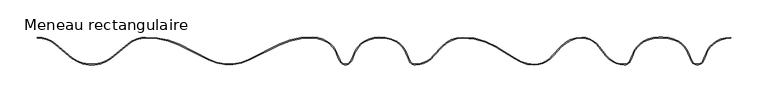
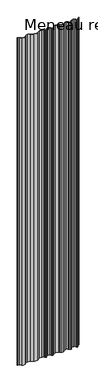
"""IFC4 building model written with IfcOpenShell, lengths in millimetres: member geometry, Meneau rectangulaire : Ritmica 930."""

from ifc_helpers import new_model, si_unit, frame, origin, place, context, project, spatial, polyline, circle_curve, source, transform, mapped, element, save
from ifc_brep_helpers import plane_surface, cylinder_surface, revolved_surface, advanced_brep


def meneau_rectangulaire_120ebf25(model_context):
    return source(origin(), model_context, "Body", "AdvancedBrep", [
        advanced_brep(
        [(402.2205359, 30.4385777, 0.0), (421.7589181, 35.9478391, 0.0), (421.7589181, 36.9478391, 0.0), (401.6984475, 31.2914691, 0.0), (388.8453903, 16.0569909, 0.0), (385.9787761, 8.8924216, 0.0), (384.3336727, 5.4571133, 0.0), (370.1555943, 5.4519528, 0.0), (368.5079906, 8.8860626, 0.0), (365.6361617, 16.0485432, 0.0), (352.7665281, 31.277015, 0.0), (331.1566595, 37.2056593, 0.0), (325.8181686, 37.2056593, 0.0), (304.2106964, 31.2585224, 0.0), (291.354122, 16.0229852, 0.0), (288.4869159, 8.8569365, 0.0), (286.8418125, 5.4216282, 0.0), (279.7543979, 0.9556818, 0.0), (255.5611507, 12.6054811, 0.0), (246.0362251, 24.5565471, 0.0), (222.7501335, 36.9429608, 0.0), (194.5527852, 24.6182498, 0.0), (183.4233669, 12.6003168, 0.0), (159.2172985, 0.9038291, 0.0), (133.0380886, 9.1495706, 0.0), (115.6744339, 20.3001087, 0.0), (108.2363693, 24.6976264, 0.0), (63.5265456, 37.0260575, 0.0), (35.3401939, 24.7013521, 0.0), (24.2106858, 12.683322, 0.0), (0.0030296, 0.9869307, 0.0), (-7.0877621, 5.4477166, 0.0), (-8.7353659, 8.8818263, 0.0), (-11.6071948, 16.044307, 0.0), (-24.4768283, 31.2727788, 0.0), (-48.7885595, 37.1140573, 0.0), (-68.816655, 31.4577126, 0.0), (-81.6697123, 16.2232345, 0.0), (-84.5363264, 9.0586651, 0.0), (-86.1814299, 5.6233569, 0.0), (-100.3595082, 5.6181963, 0.0), (-102.007112, 9.0523061, 0.0), (-104.8789409, 16.2147868, 0.0), (-117.7430848, 31.4399044, 0.0), (-137.7899019, 37.0816721, 0.0), (-181.9940118, 27.7973456, 0.0), (-222.5328517, 7.3967696, 0.0), (-275.5383238, 7.3774767, 0.0), (-316.0920037, 27.7485366, 0.0), (-360.3028616, 37.0006818, 0.0), (-384.6892438, 28.1569021, 0.0), (-407.0931164, 9.4780798, 0.0), (-458.7111182, 9.4592919, 0.0), (-481.1285823, 28.1218001, 0.0), (-505.5391627, 36.9478229, 0.0), (-505.5391627, 35.9478228, 0.0), (-481.768388, 27.3532635, 0.0), (-459.3305586, 8.6738011, 0.0), (-406.4731044, 8.6930401, 0.0), (-384.0488787, 27.3888314, 0.0), (-360.2847308, 36.0006925, 0.0), (-316.5331062, 26.8510378, 0.0), (-275.9871976, 6.4838815, 0.0), (-222.0833276, 6.5035014, 0.0), (-181.5522561, 26.9001681, 0.0), (-137.8073037, 36.0816698, 0.0), (-118.2645522, 30.5866331, 0.0), (-105.8071999, 15.8428524, 0.0), (-102.9229956, 8.6495068, 0.0), (-101.26111, 5.1856293, 0.0), (-85.2795134, 5.1914463, 0.0), (-83.6201498, 8.6565327, 0.0), (-80.7411827, 15.8519759, 0.0), (-68.2945667, 30.6048212, 0.0), (-48.7558205, 36.1140827, 0.0), (-24.992806, 30.4161534, 0.0), (-12.5354538, 15.6723726, 0.0), (-9.6512495, 8.4790271, 0.0), (-7.9893639, 5.0151496, 0.0), (5.58e-05, -0.0130699, 0.0), (24.9701296, 12.0316475, 0.0), (36.0739028, 24.0218881, 0.0), (63.5379063, 36.0260631, 0.0), (107.7160778, 23.8435356, 0.0), (115.1496156, 19.4486943, 0.0), (132.4826193, 8.3178394, 0.0), (159.2158569, -0.0961715, 0.0), (184.1827208, 11.9485452, 0.0), (195.286494, 23.9387858, 0.0), (222.7504975, 35.9429609, 0.0), (245.2289804, 23.9649435, 0.0), (254.7791365, 11.9822206, 0.0), (279.7547619, -0.0443181, 0.0), (287.7437289, 4.9897177, 0.0), (289.4030925, 8.4548041, 0.0), (292.2820596, 15.6502473, 0.0), (304.7286757, 30.4030926, 0.0), (325.8181686, 36.2037161, 0.0), (331.1568404, 36.2056593, 0.0), (352.2505504, 30.4203896, 0.0), (364.7079026, 15.6766089, 0.0), (367.5921069, 8.4832633, 0.0), (369.2539925, 5.0193858, 0.0), (385.2355891, 5.0252028, 0.0), (386.8949527, 8.4902892, 0.0), (389.7739198, 15.6857324, 0.0), (402.2205359, 30.4385777, -5176.3809021), (389.7739198, 15.6857324, -5176.3809021), (386.8949527, 8.4902892, -5176.3809021), (385.2355891, 5.0252028, -5176.3809021), (369.2539925, 5.0193858, -5176.3809021), (367.5921069, 8.4832633, -5176.3809021), (364.7079026, 15.6766089, -5176.3809021), (352.2505504, 30.4203896, -5176.3809021), (331.1568404, 36.2056593, -5176.3809021), (325.8181686, 36.2056593, -5176.3809021), (304.7286757, 30.4030926, -5176.3809021), (292.2820596, 15.6502473, -5176.3809021), (289.4030925, 8.4548041, -5176.3809021), (287.7437289, 4.9897177, -5176.3809021), (279.7547619, -0.0443181, -5176.3809021), (254.7791365, 11.9822206, -5176.3809021), (245.2289804, 23.9649435, -5176.3809021), (222.7504975, 35.9429609, -5176.3809021), (195.286494, 23.9387858, -5176.3809021), (184.1827208, 11.9485452, -5176.3809021), (159.2158569, -0.0961715, -5176.3809021), (132.4826193, 8.3178394, -5176.3809021), (115.1496156, 19.4486943, -5176.3809021), (107.7160778, 23.8435356, -5176.3809021), (63.5379063, 36.0260631, -5176.3809021), (36.0739028, 24.0218881, -5176.3809021), (24.9701296, 12.0316475, -5176.3809021), (0.0032656, -0.0130693, -5176.3809021), (-7.9893639, 5.0151496, -5176.3809021), (-9.6512495, 8.4790271, -5176.3809021), (-12.5354538, 15.6723726, -5176.3809021), (-24.992806, 30.4161534, -5176.3809021), (-48.7558205, 36.1140827, -5176.3809021), (-68.2945667, 30.6048212, -5176.3809021), (-80.7411827, 15.8519759, -5176.3809021), (-83.6201498, 8.6565327, -5176.3809021), (-85.2795134, 5.1914463, -5176.3809021), (-101.26111, 5.1856293, -5176.3809021), (-102.9229956, 8.6495068, -5176.3809021), (-105.8071999, 15.8428524, -5176.3809021), (-118.2645522, 30.5866331, -5176.3809021), (-137.8073037, 36.0816698, -5176.3809021), (-181.5522561, 26.9001681, -5176.3809021), (-222.0833276, 6.5035014, -5176.3809021), (-275.9871976, 6.4838815, -5176.3809021), (-316.5331062, 26.8510378, -5176.3809021), (-360.2847308, 36.0006925, -5176.3809021), (-384.0488787, 27.3888314, -5176.3809021), (-406.4731044, 8.6930401, -5176.3809021), (-459.3305586, 8.6738011, -5176.3809021), (-481.768388, 27.3532635, -5176.3809021), (-505.5391627, 35.9478228, -5176.3809021), (-505.5391627, 36.9478229, -5176.3809021), (-481.1285823, 28.1218001, -5176.3809021), (-458.7111182, 9.4592919, -5176.3809021), (-407.0931164, 9.4780798, -5176.3809021), (-384.6892438, 28.1569021, -5176.3809021), (-360.3028616, 37.0006818, -5176.3809021), (-316.0920037, 27.7485366, -5176.3809021), (-275.5383238, 7.3774767, -5176.3809021), (-222.5328517, 7.3967696, -5176.3809021), (-181.9940118, 27.7973456, -5176.3809021), (-137.7899019, 37.0816721, -5176.3809021), (-117.7430848, 31.4399044, -5176.3809021), (-104.8789409, 16.2147868, -5176.3809021), (-102.007112, 9.0523061, -5176.3809021), (-100.3595082, 5.6181963, -5176.3809021), (-86.1814299, 5.6233569, -5176.3809021), (-84.5363264, 9.0586651, -5176.3809021), (-81.6697123, 16.2232345, -5176.3809021), (-68.816655, 31.4577126, -5176.3809021), (-48.7885595, 37.1140573, -5176.3809021), (-24.4768283, 31.2727788, -5176.3809021), (-11.6071948, 16.044307, -5176.3809021), (-8.7353659, 8.8818263, -5176.3809021), (-7.0877621, 5.4477166, -5176.3809021), (5.4e-05, 0.9869301, -5176.3809021), (24.2106858, 12.683322, -5176.3809021), (35.3401939, 24.7013521, -5176.3809021), (63.5265456, 37.0260575, -5176.3809021), (108.2363693, 24.6976264, -5176.3809021), (115.6744339, 20.3001087, -5176.3809021), (133.0380886, 9.1495706, -5176.3809021), (159.2172985, 0.9038291, -5176.3809021), (183.4233669, 12.6003168, -5176.3809021), (194.5527852, 24.6182498, -5176.3809021), (222.7501335, 36.9429608, -5176.3809021), (246.0362251, 24.5565471, -5176.3809021), (255.5611507, 12.6054811, -5176.3809021), (279.7543979, 0.9556818, -5176.3809021), (286.8418125, 5.4216282, -5176.3809021), (288.4869159, 8.8569365, -5176.3809021), (291.354122, 16.0229852, -5176.3809021), (304.2106964, 31.2585224, -5176.3809021), (325.8178046, 37.2037161, -5176.3809021), (331.1566595, 37.2056593, -5176.3809021), (352.7665281, 31.277015, -5176.3809021), (365.6361617, 16.0485432, -5176.3809021), (368.5079906, 8.8860626, -5176.3809021), (370.1555943, 5.4519528, -5176.3809021), (384.3336727, 5.4571133, -5176.3809021), (385.9787761, 8.8924216, -5176.3809021), (388.8453903, 16.0569909, -5176.3809021), (401.6984475, 31.2914691, -5176.3809021), (421.7589181, 36.9478391, -5176.3809021), (421.7589181, 35.9478391, -5176.3809021)],
        [
            (0, 1, circle_curve(frame((421.7729132, -1.5024827, 0.0), z_axis=(0.0, 0.0, -1.0), x_axis=(-0.00036397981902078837, 0.9999999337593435, 0.0)), 37.4503244)),
            (1, 2),
            (2, 3, circle_curve(frame((421.7729132, -1.5024827, 0.0), z_axis=(0.0, 0.0, 1.0), x_axis=(-0.00036397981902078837, 0.9999999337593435, 0.0)), 38.4503244)),
            (3, 4, circle_curve(frame((418.2051463, 4.3258754, 0.0), z_axis=(0.0, 0.0, 1.0), x_axis=(-0.522088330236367, 0.8528914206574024, 0.0)), 31.6166783)),
            (4, 5),
            (5, 6),
            (6, 7, circle_curve(frame((377.2433967, 8.8525109, 0.0), z_axis=(0.0, 0.0, -1.0), x_axis=(0.9019164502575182, -0.4319105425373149, 0.0)), 7.8613445)),
            (7, 8),
            (8, 9),
            (9, 10, circle_curve(frame((336.2849532, 4.2960581, 0.0), z_axis=(0.0, 0.0, 1.0), x_axis=(0.928348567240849, 0.3717108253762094, 0.0)), 31.6166783)),
            (10, 11, circle_curve(frame((331.1718702, -5.0871328, 0.0), z_axis=(0.0, 0.0, 1.0), x_axis=(0.5104687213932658, 0.8598963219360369, 0.0)), 42.2927949)),
            (11, 12),
            (12, 13, circle_curve(frame((325.8331983, -5.089076, 0.0), z_axis=(0.0, 0.0, 1.0), x_axis=(-0.0003639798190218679, 0.9999999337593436, 0.0)), 42.2927949)),
            (13, 14, circle_curve(frame((320.9540861, 4.0872333, 0.0), z_axis=(0.0, 0.0, 1.0), x_axis=(-0.5248253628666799, 0.8512099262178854, 0.0)), 31.9158276)),
            (14, 15),
            (15, 16),
            (16, 17, circle_curve(frame((279.7515365, 8.8170258, 0.0), z_axis=(0.0, 0.0, -1.0), x_axis=(0.9019164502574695, -0.4319105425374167, 0.0)), 7.8613445)),
            (17, 18, circle_curve(frame((279.7431426, 31.8783789, 0.0), z_axis=(0.0, 0.0, -1.0), x_axis=(0.00036397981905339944, -0.9999999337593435, 0.0)), 30.9226992)),
            (18, 19),
            (19, 20, circle_curve(frame((222.7603477, 8.8803744, 0.0), z_axis=(0.0, 0.0, 1.0), x_axis=(0.8302470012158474, 0.5573956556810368, 0.0)), 28.0625882)),
            (20, 21, circle_curve(frame((222.7641287, -1.5073611, 0.0), z_axis=(0.0, 0.0, 1.0), x_axis=(-0.0003639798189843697, 0.9999999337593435, 0.0)), 38.4503244)),
            (21, 22),
            (22, 23, circle_curve(frame((159.2042377, 31.8265255, 0.0), z_axis=(0.0, 0.0, -1.0), x_axis=(0.7824677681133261, -0.622691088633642, 0.0)), 30.9226992)),
            (23, 24, circle_curve(frame((159.3694534, 47.0676509, 0.0), z_axis=(0.0, 0.0, -1.0), x_axis=(-0.003256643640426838, -0.9999946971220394, 0.0)), 46.1640725)),
            (24, 25),
            (25, 26),
            (26, 27, circle_curve(frame((65.3150434, -43.7235405, 0.0), z_axis=(0.0, 0.0, 1.0), x_axis=(0.5315450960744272, 0.8470299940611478, 0.0)), 80.769402)),
            (27, 28, circle_curve(frame((63.5515374, -1.4242588, 0.0), z_axis=(0.0, 0.0, 1.0), x_axis=(-0.0003639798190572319, 0.9999999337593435, 0.0)), 38.4503244)),
            (28, 29),
            (29, 30, circle_curve(frame((0.0, 31.8923121, 0.0), z_axis=(0.0, 0.0, -1.0), x_axis=(0.7826306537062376, -0.6224863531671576, 0.0)), 30.9053815)),
            (30, 31, circle_curve(frame((4.03e-05, 8.8482747, 0.0), z_axis=(0.0, 0.0, -1.0), x_axis=(0.0003639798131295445, -0.9999999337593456, 0.0)), 7.8613445)),
            (31, 32),
            (32, 33),
            (33, 34, circle_curve(frame((-40.9584033, 4.2918219, 0.0), z_axis=(0.0, 0.0, 1.0), x_axis=(0.9283485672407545, 0.3717108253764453, 0.0)), 31.6166783)),
            (34, 35, circle_curve(frame((-46.0714863, -5.0913691, 0.0), z_axis=(0.0, 0.0, 1.0), x_axis=(0.5104687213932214, 0.8598963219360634, 0.0)), 42.2927949)),
            (35, 36, circle_curve(frame((-48.7421893, -1.3362392, 0.0), z_axis=(0.0, 0.0, 1.0), x_axis=(-0.000363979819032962, 0.9999999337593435, 0.0)), 38.4503244)),
            (36, 37, circle_curve(frame((-52.3099562, 4.4921189, 0.0), z_axis=(0.0, 0.0, 1.0), x_axis=(-0.522088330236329, 0.8528914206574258, 0.0)), 31.6166783)),
            (37, 38),
            (38, 39),
            (39, 40, circle_curve(frame((-93.2717058, 9.0187544, 0.0), z_axis=(0.0, 0.0, -1.0), x_axis=(0.9019164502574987, -0.43191054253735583, 0.0)), 7.8613445)),
            (40, 41),
            (41, 42),
            (42, 43, circle_curve(frame((-134.2301494, 4.4623016, 0.0), z_axis=(0.0, 0.0, 1.0), x_axis=(0.9283485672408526, 0.3717108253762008, 0.0)), 31.6166783)),
            (43, 44, circle_curve(frame((-137.7936725, -1.3686521, 0.0), z_axis=(0.0, 0.0, 1.0), x_axis=(0.5214673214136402, 0.8532712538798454, 0.0)), 38.4503244)),
            (44, 45, circle_curve(frame((-141.0742515, -57.1544877, 0.0), z_axis=(0.0, 0.0, 1.0), x_axis=(0.035018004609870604, 0.9993866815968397, 0.0)), 94.293376)),
            (45, 46),
            (46, 47, circle_curve(frame((-249.054774, 60.0995934, 0.0), z_axis=(0.0, 0.0, -1.0), x_axis=(0.4495241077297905, -0.8932681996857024, 0.0)), 59.0)),
            (47, 48),
            (48, 49, circle_curve(frame((-356.9499117, -57.2330621, 0.0), z_axis=(0.0, 0.0, 1.0), x_axis=(0.43322266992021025, 0.9012869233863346, 0.0)), 94.293376)),
            (49, 50, circle_curve(frame((-360.2712158, -1.1307254, 0.0), z_axis=(0.0, 0.0, 1.0), x_axis=(-0.00036397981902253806, 0.9999999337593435, 0.0)), 38.1314203)),
            (50, 51),
            (51, 52, circle_curve(frame((-432.9146997, 44.0375933, 0.0), z_axis=(0.0, 0.0, -1.0), x_axis=(0.5990307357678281, -0.800726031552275, 0.0)), 43.1406321)),
            (52, 53),
            (53, 54, circle_curve(frame((-505.5252836, -1.1835949, 0.0), z_axis=(0.0, 0.0, 1.0), x_axis=(0.639805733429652, 0.7685366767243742, 0.0)), 38.1314203)),
            (54, 55),
            (55, 56, circle_curve(frame((-505.5252836, -1.1835949, 0.0), z_axis=(0.0, 0.0, -1.0), x_axis=(0.639805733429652, 0.7685366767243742, 0.0)), 37.1314203)),
            (56, 57),
            (57, 58, circle_curve(frame((-432.9146997, 44.0375933, 0.0), z_axis=(0.0, 0.0, 1.0), x_axis=(0.5990307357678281, -0.800726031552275, 0.0)), 44.1406321)),
            (58, 59),
            (59, 60, circle_curve(frame((-360.2712158, -1.1307254, 0.0), z_axis=(0.0, 0.0, -1.0), x_axis=(-0.00036397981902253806, 0.9999999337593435, 0.0)), 37.1314203)),
            (60, 61, circle_curve(frame((-356.9499117, -57.2330621, 0.0), z_axis=(0.0, 0.0, -1.0), x_axis=(0.43322266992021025, 0.9012869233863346, 0.0)), 93.293376)),
            (61, 62),
            (62, 63, circle_curve(frame((-249.054774, 60.0995934, 0.0), z_axis=(0.0, 0.0, 1.0), x_axis=(0.4495241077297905, -0.8932681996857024, 0.0)), 60.0)),
            (63, 64),
            (64, 65, circle_curve(frame((-141.0742515, -57.1544877, 0.0), z_axis=(0.0, 0.0, -1.0), x_axis=(0.035018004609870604, 0.9993866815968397, 0.0)), 93.293376)),
            (65, 66, circle_curve(frame((-137.7936725, -1.3686521, 0.0), z_axis=(0.0, 0.0, -1.0), x_axis=(0.5214673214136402, 0.8532712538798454, 0.0)), 37.4503244)),
            (66, 67, circle_curve(frame((-134.2301494, 4.4623016, 0.0), z_axis=(0.0, 0.0, -1.0), x_axis=(0.9283485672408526, 0.3717108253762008, 0.0)), 30.6166783)),
            (67, 68),
            (68, 69),
            (69, 70, circle_curve(frame((-93.2717058, 9.0187544, 0.0), z_axis=(0.0, 0.0, 1.0), x_axis=(0.9019164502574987, -0.43191054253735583, 0.0)), 8.8613445)),
            (70, 71),
            (71, 72),
            (72, 73, circle_curve(frame((-52.3099562, 4.4921189, 0.0), z_axis=(0.0, 0.0, -1.0), x_axis=(-0.522088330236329, 0.8528914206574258, 0.0)), 30.6166783)),
            (73, 74, circle_curve(frame((-48.7421893, -1.3362392, 0.0), z_axis=(0.0, 0.0, -1.0), x_axis=(-0.000363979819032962, 0.9999999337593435, 0.0)), 37.4503244)),
            (74, 75, circle_curve(frame((-46.0714863, -5.0913691, 0.0), z_axis=(0.0, 0.0, -1.0), x_axis=(0.5104687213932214, 0.8598963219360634, 0.0)), 41.2927949)),
            (75, 76, circle_curve(frame((-40.9584033, 4.2918219, 0.0), z_axis=(0.0, 0.0, -1.0), x_axis=(0.9283485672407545, 0.3717108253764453, 0.0)), 30.6166783)),
            (76, 77),
            (77, 78),
            (78, 79, circle_curve(frame((4.03e-05, 8.8482747, 0.0), z_axis=(0.0, 0.0, 1.0), x_axis=(0.0003639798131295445, -0.9999999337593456, 0.0)), 8.8613445)),
            (79, 80, circle_curve(frame((0.0, 31.8923121, 0.0), z_axis=(0.0, 0.0, 1.0), x_axis=(0.7826306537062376, -0.6224863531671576, 0.0)), 31.9053815)),
            (80, 81),
            (81, 82, circle_curve(frame((63.5515374, -1.4242588, 0.0), z_axis=(0.0, 0.0, -1.0), x_axis=(-0.0003639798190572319, 0.9999999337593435, 0.0)), 37.4503244)),
            (82, 83, circle_curve(frame((65.3150434, -43.7235405, 0.0), z_axis=(0.0, 0.0, -1.0), x_axis=(0.5315450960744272, 0.8470299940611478, 0.0)), 79.769402)),
            (83, 84),
            (84, 85),
            (85, 86, circle_curve(frame((159.3694534, 47.0676509, 0.0), z_axis=(0.0, 0.0, 1.0), x_axis=(-0.003256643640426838, -0.9999946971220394, 0.0)), 47.1640725)),
            (86, 87, circle_curve(frame((159.2042377, 31.8265255, 0.0), z_axis=(0.0, 0.0, 1.0), x_axis=(0.7824677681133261, -0.622691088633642, 0.0)), 31.9226992)),
            (87, 88),
            (88, 89, circle_curve(frame((222.7641287, -1.5073611, 0.0), z_axis=(0.0, 0.0, -1.0), x_axis=(-0.0003639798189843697, 0.9999999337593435, 0.0)), 37.4503244)),
            (89, 90, circle_curve(frame((222.7603477, 8.8803744, 0.0), z_axis=(0.0, 0.0, -1.0), x_axis=(0.8302470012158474, 0.5573956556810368, 0.0)), 27.0625882)),
            (90, 91),
            (91, 92, circle_curve(frame((279.7431426, 31.8783789, 0.0), z_axis=(0.0, 0.0, 1.0), x_axis=(0.00036397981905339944, -0.9999999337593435, 0.0)), 31.9226992)),
            (92, 93, circle_curve(frame((279.7515365, 8.8170258, 0.0), z_axis=(0.0, 0.0, 1.0), x_axis=(0.9019164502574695, -0.4319105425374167, 0.0)), 8.8613445)),
            (93, 94),
            (94, 95),
            (95, 96, circle_curve(frame((320.9540861, 4.0872333, 0.0), z_axis=(0.0, 0.0, -1.0), x_axis=(-0.5248253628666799, 0.8512099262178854, 0.0)), 30.9158276)),
            (96, 97, circle_curve(frame((325.8331983, -5.089076, 0.0), z_axis=(0.0, 0.0, -1.0), x_axis=(-0.0003639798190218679, 0.9999999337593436, 0.0)), 41.2927949)),
            (97, 98),
            (98, 99, circle_curve(frame((331.1718702, -5.0871328, 0.0), z_axis=(0.0, 0.0, -1.0), x_axis=(0.5104687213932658, 0.8598963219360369, 0.0)), 41.2927949)),
            (99, 100, circle_curve(frame((336.2849532, 4.2960581, 0.0), z_axis=(0.0, 0.0, -1.0), x_axis=(0.928348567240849, 0.3717108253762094, 0.0)), 30.6166783)),
            (100, 101),
            (101, 102),
            (102, 103, circle_curve(frame((377.2433967, 8.8525109, 0.0), z_axis=(0.0, 0.0, 1.0), x_axis=(0.9019164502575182, -0.4319105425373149, 0.0)), 8.8613445)),
            (103, 104),
            (104, 105),
            (105, 0, circle_curve(frame((418.2051463, 4.3258754, 0.0), z_axis=(0.0, 0.0, -1.0), x_axis=(-0.522088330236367, 0.8528914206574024, 0.0)), 30.6166783)),
            (106, 107, circle_curve(frame((418.2051463, 4.3258754, -5176.3809021), z_axis=(0.0, 0.0, 1.0), x_axis=(-0.522088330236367, 0.8528914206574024, 0.0)), 30.6166783)),
            (107, 108),
            (108, 109),
            (109, 110, circle_curve(frame((377.2433967, 8.8525109, -5176.3809021), z_axis=(0.0, 0.0, -1.0), x_axis=(0.9019164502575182, -0.4319105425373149, 0.0)), 8.8613445)),
            (110, 111),
            (111, 112),
            (112, 113, circle_curve(frame((336.2849532, 4.2960581, -5176.3809021), z_axis=(0.0, 0.0, 1.0), x_axis=(0.928348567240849, 0.3717108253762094, 0.0)), 30.6166783)),
            (113, 114, circle_curve(frame((331.1718702, -5.0871328, -5176.3809021), z_axis=(0.0, 0.0, 1.0), x_axis=(0.5104687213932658, 0.8598963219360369, 0.0)), 41.2927949)),
            (114, 115),
            (115, 116, circle_curve(frame((325.8331983, -5.089076, -5176.3809021), z_axis=(0.0, 0.0, 1.0), x_axis=(-0.0003639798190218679, 0.9999999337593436, 0.0)), 41.2927949)),
            (116, 117, circle_curve(frame((320.9540861, 4.0872333, -5176.3809021), z_axis=(0.0, 0.0, 1.0), x_axis=(-0.5248253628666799, 0.8512099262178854, 0.0)), 30.9158276)),
            (117, 118),
            (118, 119),
            (119, 120, circle_curve(frame((279.7515365, 8.8170258, -5176.3809021), z_axis=(0.0, 0.0, -1.0), x_axis=(0.9019164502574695, -0.4319105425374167, 0.0)), 8.8613445)),
            (120, 121, circle_curve(frame((279.7431426, 31.8783789, -5176.3809021), z_axis=(0.0, 0.0, -1.0), x_axis=(0.00036397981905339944, -0.9999999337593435, 0.0)), 31.9226992)),
            (121, 122),
            (122, 123, circle_curve(frame((222.7603477, 8.8803744, -5176.3809021), z_axis=(0.0, 0.0, 1.0), x_axis=(0.8302470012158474, 0.5573956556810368, 0.0)), 27.0625882)),
            (123, 124, circle_curve(frame((222.7641287, -1.5073611, -5176.3809021), z_axis=(0.0, 0.0, 1.0), x_axis=(-0.0003639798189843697, 0.9999999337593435, 0.0)), 37.4503244)),
            (124, 125),
            (125, 126, circle_curve(frame((159.2042377, 31.8265255, -5176.3809021), z_axis=(0.0, 0.0, -1.0), x_axis=(0.7824677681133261, -0.622691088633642, 0.0)), 31.9226992)),
            (126, 127, circle_curve(frame((159.3694534, 47.0676509, -5176.3809021), z_axis=(0.0, 0.0, -1.0), x_axis=(-0.003256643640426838, -0.9999946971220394, 0.0)), 47.1640725)),
            (127, 128),
            (128, 129),
            (129, 130, circle_curve(frame((65.3150434, -43.7235405, -5176.3809021), z_axis=(0.0, 0.0, 1.0), x_axis=(0.5315450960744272, 0.8470299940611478, 0.0)), 79.769402)),
            (130, 131, circle_curve(frame((63.5515374, -1.4242588, -5176.3809021), z_axis=(0.0, 0.0, 1.0), x_axis=(-0.0003639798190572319, 0.9999999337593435, 0.0)), 37.4503244)),
            (131, 132),
            (132, 133, circle_curve(frame((0.0, 31.8923121, -5176.3809021), z_axis=(0.0, 0.0, -1.0), x_axis=(0.7826306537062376, -0.6224863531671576, 0.0)), 31.9053815)),
            (133, 134, circle_curve(frame((4.03e-05, 8.8482747, -5176.3809021), z_axis=(0.0, 0.0, -1.0), x_axis=(0.0003639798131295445, -0.9999999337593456, 0.0)), 8.8613445)),
            (134, 135),
            (135, 136),
            (136, 137, circle_curve(frame((-40.9584033, 4.2918219, -5176.3809021), z_axis=(0.0, 0.0, 1.0), x_axis=(0.9283485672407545, 0.3717108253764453, 0.0)), 30.6166783)),
            (137, 138, circle_curve(frame((-46.0714863, -5.0913691, -5176.3809021), z_axis=(0.0, 0.0, 1.0), x_axis=(0.5104687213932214, 0.8598963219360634, 0.0)), 41.2927949)),
            (138, 139, circle_curve(frame((-48.7421893, -1.3362392, -5176.3809021), z_axis=(0.0, 0.0, 1.0), x_axis=(-0.000363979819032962, 0.9999999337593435, 0.0)), 37.4503244)),
            (139, 140, circle_curve(frame((-52.3099562, 4.4921189, -5176.3809021), z_axis=(0.0, 0.0, 1.0), x_axis=(-0.522088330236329, 0.8528914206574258, 0.0)), 30.6166783)),
            (140, 141),
            (141, 142),
            (142, 143, circle_curve(frame((-93.2717058, 9.0187544, -5176.3809021), z_axis=(0.0, 0.0, -1.0), x_axis=(0.9019164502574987, -0.43191054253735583, 0.0)), 8.8613445)),
            (143, 144),
            (144, 145),
            (145, 146, circle_curve(frame((-134.2301494, 4.4623016, -5176.3809021), z_axis=(0.0, 0.0, 1.0), x_axis=(0.9283485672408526, 0.3717108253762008, 0.0)), 30.6166783)),
            (146, 147, circle_curve(frame((-137.7936725, -1.3686521, -5176.3809021), z_axis=(0.0, 0.0, 1.0), x_axis=(0.5214673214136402, 0.8532712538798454, 0.0)), 37.4503244)),
            (147, 148, circle_curve(frame((-141.0742515, -57.1544877, -5176.3809021), z_axis=(0.0, 0.0, 1.0), x_axis=(0.035018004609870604, 0.9993866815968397, 0.0)), 93.293376)),
            (148, 149),
            (149, 150, circle_curve(frame((-249.054774, 60.0995934, -5176.3809021), z_axis=(0.0, 0.0, -1.0), x_axis=(0.4495241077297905, -0.8932681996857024, 0.0)), 60.0)),
            (150, 151),
            (151, 152, circle_curve(frame((-356.9499117, -57.2330621, -5176.3809021), z_axis=(0.0, 0.0, 1.0), x_axis=(0.43322266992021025, 0.9012869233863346, 0.0)), 93.293376)),
            (152, 153, circle_curve(frame((-360.2712158, -1.1307254, -5176.3809021), z_axis=(0.0, 0.0, 1.0), x_axis=(-0.00036397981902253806, 0.9999999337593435, 0.0)), 37.1314203)),
            (153, 154),
            (154, 155, circle_curve(frame((-432.9146997, 44.0375933, -5176.3809021), z_axis=(0.0, 0.0, -1.0), x_axis=(0.5990307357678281, -0.800726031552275, 0.0)), 44.1406321)),
            (155, 156),
            (156, 157, circle_curve(frame((-505.5252836, -1.1835949, -5176.3809021), z_axis=(0.0, 0.0, 1.0), x_axis=(0.639805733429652, 0.7685366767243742, 0.0)), 37.1314203)),
            (157, 158),
            (158, 159, circle_curve(frame((-505.5252836, -1.1835949, -5176.3809021), z_axis=(0.0, 0.0, -1.0), x_axis=(0.639805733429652, 0.7685366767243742, 0.0)), 38.1314203)),
            (159, 160),
            (160, 161, circle_curve(frame((-432.9146997, 44.0375933, -5176.3809021), z_axis=(0.0, 0.0, 1.0), x_axis=(0.5990307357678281, -0.800726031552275, 0.0)), 43.1406321)),
            (161, 162),
            (162, 163, circle_curve(frame((-360.2712158, -1.1307254, -5176.3809021), z_axis=(0.0, 0.0, -1.0), x_axis=(-0.00036397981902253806, 0.9999999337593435, 0.0)), 38.1314203)),
            (163, 164, circle_curve(frame((-356.9499117, -57.2330621, -5176.3809021), z_axis=(0.0, 0.0, -1.0), x_axis=(0.43322266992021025, 0.9012869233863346, 0.0)), 94.293376)),
            (164, 165),
            (165, 166, circle_curve(frame((-249.054774, 60.0995934, -5176.3809021), z_axis=(0.0, 0.0, 1.0), x_axis=(0.4495241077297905, -0.8932681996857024, 0.0)), 59.0)),
            (166, 167),
            (167, 168, circle_curve(frame((-141.0742515, -57.1544877, -5176.3809021), z_axis=(0.0, 0.0, -1.0), x_axis=(0.035018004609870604, 0.9993866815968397, 0.0)), 94.293376)),
            (168, 169, circle_curve(frame((-137.7936725, -1.3686521, -5176.3809021), z_axis=(0.0, 0.0, -1.0), x_axis=(0.5214673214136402, 0.8532712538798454, 0.0)), 38.4503244)),
            (169, 170, circle_curve(frame((-134.2301494, 4.4623016, -5176.3809021), z_axis=(0.0, 0.0, -1.0), x_axis=(0.9283485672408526, 0.3717108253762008, 0.0)), 31.6166783)),
            (170, 171),
            (171, 172),
            (172, 173, circle_curve(frame((-93.2717058, 9.0187544, -5176.3809021), z_axis=(0.0, 0.0, 1.0), x_axis=(0.9019164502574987, -0.43191054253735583, 0.0)), 7.8613445)),
            (173, 174),
            (174, 175),
            (175, 176, circle_curve(frame((-52.3099562, 4.4921189, -5176.3809021), z_axis=(0.0, 0.0, -1.0), x_axis=(-0.522088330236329, 0.8528914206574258, 0.0)), 31.6166783)),
            (176, 177, circle_curve(frame((-48.7421893, -1.3362392, -5176.3809021), z_axis=(0.0, 0.0, -1.0), x_axis=(-0.000363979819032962, 0.9999999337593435, 0.0)), 38.4503244)),
            (177, 178, circle_curve(frame((-46.0714863, -5.0913691, -5176.3809021), z_axis=(0.0, 0.0, -1.0), x_axis=(0.5104687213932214, 0.8598963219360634, 0.0)), 42.2927949)),
            (178, 179, circle_curve(frame((-40.9584033, 4.2918219, -5176.3809021), z_axis=(0.0, 0.0, -1.0), x_axis=(0.9283485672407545, 0.3717108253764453, 0.0)), 31.6166783)),
            (179, 180),
            (180, 181),
            (181, 182, circle_curve(frame((4.03e-05, 8.8482747, -5176.3809021), z_axis=(0.0, 0.0, 1.0), x_axis=(0.0003639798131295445, -0.9999999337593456, 0.0)), 7.8613445)),
            (182, 183, circle_curve(frame((0.0, 31.8923121, -5176.3809021), z_axis=(0.0, 0.0, 1.0), x_axis=(0.7826306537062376, -0.6224863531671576, 0.0)), 30.9053815)),
            (183, 184),
            (184, 185, circle_curve(frame((63.5515374, -1.4242588, -5176.3809021), z_axis=(0.0, 0.0, -1.0), x_axis=(-0.0003639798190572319, 0.9999999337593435, 0.0)), 38.4503244)),
            (185, 186, circle_curve(frame((65.3150434, -43.7235405, -5176.3809021), z_axis=(0.0, 0.0, -1.0), x_axis=(0.5315450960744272, 0.8470299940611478, 0.0)), 80.769402)),
            (186, 187),
            (187, 188),
            (188, 189, circle_curve(frame((159.3694534, 47.0676509, -5176.3809021), z_axis=(0.0, 0.0, 1.0), x_axis=(-0.003256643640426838, -0.9999946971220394, 0.0)), 46.1640725)),
            (189, 190, circle_curve(frame((159.2042377, 31.8265255, -5176.3809021), z_axis=(0.0, 0.0, 1.0), x_axis=(0.7824677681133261, -0.622691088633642, 0.0)), 30.9226992)),
            (190, 191),
            (191, 192, circle_curve(frame((222.7641287, -1.5073611, -5176.3809021), z_axis=(0.0, 0.0, -1.0), x_axis=(-0.0003639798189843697, 0.9999999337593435, 0.0)), 38.4503244)),
            (192, 193, circle_curve(frame((222.7603477, 8.8803744, -5176.3809021), z_axis=(0.0, 0.0, -1.0), x_axis=(0.8302470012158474, 0.5573956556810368, 0.0)), 28.0625882)),
            (193, 194),
            (194, 195, circle_curve(frame((279.7431426, 31.8783789, -5176.3809021), z_axis=(0.0, 0.0, 1.0), x_axis=(0.00036397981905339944, -0.9999999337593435, 0.0)), 30.9226992)),
            (195, 196, circle_curve(frame((279.7515365, 8.8170258, -5176.3809021), z_axis=(0.0, 0.0, 1.0), x_axis=(0.9019164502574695, -0.4319105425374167, 0.0)), 7.8613445)),
            (196, 197),
            (197, 198),
            (198, 199, circle_curve(frame((320.9540861, 4.0872333, -5176.3809021), z_axis=(0.0, 0.0, -1.0), x_axis=(-0.5248253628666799, 0.8512099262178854, 0.0)), 31.9158276)),
            (199, 200, circle_curve(frame((325.8331983, -5.089076, -5176.3809021), z_axis=(0.0, 0.0, -1.0), x_axis=(-0.0003639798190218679, 0.9999999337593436, 0.0)), 42.2927949)),
            (200, 201),
            (201, 202, circle_curve(frame((331.1718702, -5.0871328, -5176.3809021), z_axis=(0.0, 0.0, -1.0), x_axis=(0.5104687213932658, 0.8598963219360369, 0.0)), 42.2927949)),
            (202, 203, circle_curve(frame((336.2849532, 4.2960581, -5176.3809021), z_axis=(0.0, 0.0, -1.0), x_axis=(0.928348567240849, 0.3717108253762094, 0.0)), 31.6166783)),
            (203, 204),
            (204, 205),
            (205, 206, circle_curve(frame((377.2433967, 8.8525109, -5176.3809021), z_axis=(0.0, 0.0, 1.0), x_axis=(0.9019164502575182, -0.4319105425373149, 0.0)), 7.8613445)),
            (206, 207),
            (207, 208),
            (208, 209, circle_curve(frame((418.2051463, 4.3258754, -5176.3809021), z_axis=(0.0, 0.0, -1.0), x_axis=(-0.522088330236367, 0.8528914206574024, 0.0)), 31.6166783)),
            (209, 210, circle_curve(frame((421.7729132, -1.5024827, -5176.3809021), z_axis=(0.0, 0.0, -1.0), x_axis=(-0.00036397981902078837, 0.9999999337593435, 0.0)), 38.4503244)),
            (210, 211),
            (211, 106, circle_curve(frame((421.7729132, -1.5024827, -5176.3809021), z_axis=(0.0, 0.0, 1.0), x_axis=(-0.00036397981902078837, 0.9999999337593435, 0.0)), 37.4503244)),
            (0, 106),
            (211, 1),
            (210, 2),
            (209, 3),
            (208, 4),
            (207, 5),
            (206, 6),
            (205, 7),
            (204, 8),
            (203, 9),
            (202, 10),
            (201, 11),
            (200, 12),
            (199, 13),
            (198, 14),
            (197, 15),
            (196, 16),
            (195, 17),
            (194, 18),
            (193, 19),
            (192, 20),
            (191, 21),
            (190, 22),
            (189, 23),
            (188, 24),
            (187, 25),
            (186, 26),
            (185, 27),
            (184, 28),
            (183, 29),
            (182, 30),
            (181, 31),
            (180, 32),
            (179, 33),
            (178, 34),
            (177, 35),
            (176, 36),
            (175, 37),
            (174, 38),
            (173, 39),
            (172, 40),
            (171, 41),
            (170, 42),
            (169, 43),
            (168, 44),
            (167, 45),
            (166, 46),
            (165, 47),
            (164, 48),
            (163, 49),
            (162, 50),
            (161, 51),
            (160, 52),
            (159, 53),
            (158, 54),
            (157, 55),
            (156, 56),
            (155, 57),
            (154, 58),
            (153, 59),
            (152, 60),
            (151, 61),
            (150, 62),
            (149, 63),
            (148, 64),
            (147, 65),
            (146, 66),
            (145, 67),
            (144, 68),
            (143, 69),
            (142, 70),
            (141, 71),
            (140, 72),
            (139, 73),
            (138, 74),
            (137, 75),
            (136, 76),
            (135, 77),
            (134, 78),
            (133, 79),
            (132, 80),
            (131, 81),
            (130, 82),
            (129, 83),
            (128, 84),
            (127, 85),
            (126, 86),
            (125, 87),
            (124, 88),
            (123, 89),
            (122, 90),
            (121, 91),
            (120, 92),
            (119, 93),
            (118, 94),
            (117, 95),
            (116, 96),
            (115, 97),
            (114, 98),
            (113, 99),
            (112, 100),
            (111, 101),
            (110, 102),
            (109, 103),
            (108, 104),
            (107, 105),
        ],
        [
            plane_surface(frame((0.0, -506.8875483, 0.0), z_axis=(0.0, 0.0, 1.0), x_axis=(-1.0, 0.0, 0.0))),
            plane_surface(frame((0.0, -506.8875483, -5176.3809021), z_axis=(0.0, 0.0, -1.0), x_axis=(-1.0, 0.0, 0.0))),
            revolved_surface(polyline([(421.75928203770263, 35.94783921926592, -5176.3809021), (421.75928203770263, 35.94783921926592, 0.0)]), (421.7729132, -1.5024827, 0.0), (0.0, 0.0, -1.0)),
            plane_surface(frame((421.7589181, 35.9478391, 0.0), z_axis=(1.0, 0.0, 0.0), x_axis=(0.0, 0.0, -1.0))),
            cylinder_surface(frame((421.7729132, -1.5024827, 0.0), z_axis=(0.0, 0.0, 1.0), x_axis=(-0.00036397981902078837, 0.9999999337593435, 0.0)), 38.4503244),
            cylinder_surface(frame((418.2051463, 4.3258754, 0.0), z_axis=(0.0, 0.0, 1.0), x_axis=(-0.522088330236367, 0.8528914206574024, 0.0)), 31.6166783),
            plane_surface(frame((388.8453903, 16.0569909, 0.0), z_axis=(-0.9284415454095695, 0.37147852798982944, 0.0), x_axis=(0.0, 0.0, -1.0))),
            plane_surface(frame((385.9787761, 8.8924216, 0.0), z_axis=(-0.9019164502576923, 0.43191054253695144, 0.0), x_axis=(0.0, 0.0, -1.0))),
            revolved_surface(polyline([(384.33367262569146, 5.4571133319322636, -5176.3809021), (384.33367262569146, 5.4571133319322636, 0.0)]), (377.2433967, 8.8525109, 0.0), (0.0, 0.0, -1.0)),
            plane_surface(frame((370.1555943, 5.4519528, 0.0), z_axis=(0.9016017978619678, 0.4325669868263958, 0.0), x_axis=(0.0, 0.0, -1.0))),
            plane_surface(frame((368.5079906, 8.8860626, 0.0), z_axis=(0.9281708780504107, 0.37215429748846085, 0.0), x_axis=(0.0, 0.0, -1.0))),
            cylinder_surface(frame((336.2849532, 4.2960581, 0.0), z_axis=(0.0, 0.0, 1.0), x_axis=(0.928348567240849, 0.3717108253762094, 0.0)), 31.6166783),
            cylinder_surface(frame((331.1718702, -5.0871328, 0.0), z_axis=(0.0, 0.0, 1.0), x_axis=(0.5104687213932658, 0.8598963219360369, 0.0)), 42.2927949),
            plane_surface(frame((331.1566595, 37.2056593, 0.0), z_axis=(0.0, 1.0, 0.0), x_axis=(0.0, 0.0, -1.0))),
            cylinder_surface(frame((325.8331983, -5.089076, 0.0), z_axis=(0.0, 0.0, 1.0000000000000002), x_axis=(-0.0003639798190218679, 0.9999999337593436, 0.0)), 42.2927949),
            cylinder_surface(frame((320.9540861, 4.0872333, 0.0), z_axis=(0.0, 0.0, 1.0000000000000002), x_axis=(-0.5248253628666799, 0.8512099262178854, 0.0)), 31.9158276),
            plane_surface(frame((291.354122, 16.0229852, 0.0), z_axis=(-0.9284415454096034, 0.3714785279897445, 0.0), x_axis=(0.0, 0.0, -1.0))),
            plane_surface(frame((288.4869159, 8.8569365, 0.0), z_axis=(-0.9019164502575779, 0.43191054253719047, 0.0), x_axis=(0.0, 0.0, -1.0))),
            revolved_surface(polyline([(286.84181242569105, 5.421628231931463, -5176.3809021), (286.84181242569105, 5.421628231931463, 0.0)]), (279.7515365, 8.8170258, 0.0), (0.0, 0.0, -1.0)),
            revolved_surface(polyline([(279.75439783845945, 0.9556817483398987, -5176.3809021), (279.75439783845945, 0.9556817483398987, 0.0)]), (279.7431426, 31.8783789, 0.0), (0.0, 0.0, -1.0)),
            plane_surface(frame((255.5611507, 12.6054811, 0.0), z_axis=(0.7820142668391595, 0.6232605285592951, 0.0), x_axis=(0.0, 0.0, -1.0))),
            cylinder_surface(frame((222.7603477, 8.8803744, 0.0), z_axis=(0.0, 0.0, 1.0000000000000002), x_axis=(0.8302470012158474, 0.5573956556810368, 0.0)), 28.0625882),
            cylinder_surface(frame((222.7641287, -1.5073611, 0.0), z_axis=(0.0, 0.0, 1.0), x_axis=(-0.0003639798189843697, 0.9999999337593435, 0.0)), 38.4503244),
            plane_surface(frame((194.5527852, 24.6182498, 0.0), z_axis=(-0.7337088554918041, 0.6794639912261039, 0.0), x_axis=(0.0, 0.0, -1.0))),
            revolved_surface(polyline([(183.40025312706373, 12.571236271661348, -5176.3809021), (183.40025312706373, 12.571236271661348, 0.0)]), (159.2042377, 31.8265255, 0.0), (0.0, 0.0, -1.0)),
            revolved_surface(polyline([(159.21911346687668, 0.9038232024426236, -5176.3809021), (159.21911346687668, 0.9038232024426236, 0.0)]), (159.3694534, 47.0676509, 0.0), (0.0, 0.0, -1.0)),
            plane_surface(frame((133.0380886, 9.1495706, 0.0), z_axis=(0.540352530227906, 0.8414387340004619, 0.0), x_axis=(0.0, 0.0, -1.0))),
            plane_surface(frame((115.6744339, 20.3001087, 0.0), z_axis=(0.508926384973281, 0.8608100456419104, 0.0), x_axis=(0.0, 0.0, -1.0))),
            cylinder_surface(frame((65.3150434, -43.7235405, 0.0), z_axis=(0.0, 0.0, 1.0), x_axis=(0.5315450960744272, 0.8470299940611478, 0.0)), 80.769402),
            cylinder_surface(frame((63.5515374, -1.4242588, 0.0), z_axis=(0.0, 0.0, 1.0), x_axis=(-0.0003639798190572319, 0.9999999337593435, 0.0)), 38.4503244),
            plane_surface(frame((35.3401939, 24.7013521, 0.0), z_axis=(-0.7337088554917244, 0.67946399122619, 0.0), x_axis=(0.0, 0.0, -1.0))),
            revolved_surface(polyline([(24.187498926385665, 12.654133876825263, -5176.380902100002), (24.187498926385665, 12.654133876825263, 0.0)]), (0.0, 31.8923121, 0.0), (0.0, 0.0, -1.0000000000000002)),
            revolved_surface(polyline([(0.0029016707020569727, 0.9869307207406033, -5176.3809021), (0.0029016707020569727, 0.9869307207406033, 0.0)]), (4.03e-05, 8.8482747, 0.0), (0.0, 0.0, -1.0)),
            plane_surface(frame((-7.0877621, 5.4477166, 0.0), z_axis=(0.9016017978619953, 0.4325669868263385, 0.0), x_axis=(0.0, 0.0, -1.0))),
            plane_surface(frame((-8.7353659, 8.8818263, 0.0), z_axis=(0.9281708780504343, 0.372154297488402, 0.0), x_axis=(0.0, 0.0, -1.0))),
            cylinder_surface(frame((-40.9584033, 4.2918219, 0.0), z_axis=(0.0, 0.0, 1.0), x_axis=(0.9283485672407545, 0.3717108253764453, 0.0)), 31.6166783),
            cylinder_surface(frame((-46.0714863, -5.0913691, 0.0), z_axis=(0.0, 0.0, 1.0000000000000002), x_axis=(0.5104687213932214, 0.8598963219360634, 0.0)), 42.2927949),
            cylinder_surface(frame((-48.7421893, -1.3362392, 0.0), z_axis=(0.0, 0.0, 1.0), x_axis=(-0.000363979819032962, 0.9999999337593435, 0.0)), 38.4503244),
            cylinder_surface(frame((-52.3099562, 4.4921189, 0.0), z_axis=(0.0, 0.0, 1.0000000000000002), x_axis=(-0.522088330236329, 0.8528914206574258, 0.0)), 31.6166783),
            plane_surface(frame((-81.6697123, 16.2232345, 0.0), z_axis=(-0.9284415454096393, 0.37147852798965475, 0.0), x_axis=(0.0, 0.0, -1.0))),
            plane_surface(frame((-84.5363264, 9.0586651, 0.0), z_axis=(-0.9019164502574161, 0.4319105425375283, 0.0), x_axis=(0.0, 0.0, -1.0))),
            revolved_surface(polyline([(-86.18142987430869, 5.623356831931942, -5176.3809021), (-86.18142987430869, 5.623356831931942, 0.0)]), (-93.2717058, 9.0187544, 0.0), (0.0, 0.0, -1.0)),
            plane_surface(frame((-100.3595082, 5.6181963, 0.0), z_axis=(0.9016017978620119, 0.4325669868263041, 0.0), x_axis=(0.0, 0.0, -1.0))),
            plane_surface(frame((-102.007112, 9.0523061, 0.0), z_axis=(0.9281708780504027, 0.372154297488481, 0.0), x_axis=(0.0, 0.0, -1.0))),
            cylinder_surface(frame((-134.2301494, 4.4623016, 0.0), z_axis=(0.0, 0.0, 1.0000000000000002), x_axis=(0.9283485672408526, 0.3717108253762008, 0.0)), 31.6166783),
            cylinder_surface(frame((-137.7936725, -1.3686521, 0.0), z_axis=(0.0, 0.0, 1.0000000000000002), x_axis=(0.5214673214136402, 0.8532712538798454, 0.0)), 38.4503244),
            cylinder_surface(frame((-141.0742515, -57.1544877, 0.0), z_axis=(0.0, 0.0, 1.0), x_axis=(0.035018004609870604, 0.9993866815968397, 0.0)), 94.293376),
            plane_surface(frame((-181.9940118, 27.7973456, 0.0), z_axis=(-0.449524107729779, 0.893268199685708, 0.0), x_axis=(0.0, 0.0, -1.0))),
            revolved_surface(polyline([(-222.53285164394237, 7.396769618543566, -5176.380902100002), (-222.53285164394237, 7.396769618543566, 0.0)]), (-249.054774, 60.0995934, 0.0), (0.0, 0.0, -1.0000000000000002)),
            plane_surface(frame((-275.5383238, 7.3774767, 0.0), z_axis=(0.44887372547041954, 0.8935951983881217, 0.0), x_axis=(0.0, 0.0, -1.0))),
            cylinder_surface(frame((-356.9499117, -57.2330621, 0.0), z_axis=(0.0, 0.0, 1.0), x_axis=(0.43322266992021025, 0.9012869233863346, 0.0)), 94.293376),
            cylinder_surface(frame((-360.2712158, -1.1307254, 0.0), z_axis=(0.0, 0.0, 1.0), x_axis=(-0.00036397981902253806, 0.9999999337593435, 0.0)), 38.1314203),
            plane_surface(frame((-384.6892438, 28.1569021, 0.0), z_axis=(-0.6403650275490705, 0.7680707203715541, 0.0), x_axis=(0.0, 0.0, -1.0))),
            revolved_surface(polyline([(-407.07213511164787, 9.493766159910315, -5176.380902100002), (-407.07213511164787, 9.493766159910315, 0.0)]), (-432.9146997, 44.0375933, 0.0), (0.0, 0.0, -1.0000000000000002)),
            plane_surface(frame((-458.7111182, 9.4592919, 0.0), z_axis=(0.6398057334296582, 0.7685366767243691, 0.0), x_axis=(0.0, 0.0, -1.0))),
            cylinder_surface(frame((-505.5252836, -1.1835949, 0.0), z_axis=(0.0, 0.0, 1.0), x_axis=(0.639805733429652, 0.7685366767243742, 0.0)), 38.1314203),
            plane_surface(frame((-505.5391627, 36.9478229, 0.0), z_axis=(-1.0, 0.0, 0.0), x_axis=(0.0, 0.0, -1.0))),
            revolved_surface(polyline([(-481.7683880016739, 27.353263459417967, -5176.3809021), (-481.7683880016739, 27.353263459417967, 0.0)]), (-505.5252836, -1.1835949, 0.0), (0.0, 0.0, -1.0)),
            plane_surface(frame((-481.768388, 27.3532635, 0.0), z_axis=(-0.6398057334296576, -0.7685366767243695, 0.0), x_axis=(0.0, 0.0, -1.0))),
            cylinder_surface(frame((-432.9146997, 44.0375933, 0.0), z_axis=(0.0, 0.0, 1.0000000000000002), x_axis=(0.5990307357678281, -0.800726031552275, 0.0)), 44.1406321),
            plane_surface(frame((-406.4731044, 8.6930401, 0.0), z_axis=(0.6403650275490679, -0.7680707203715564, 0.0), x_axis=(0.0, 0.0, -1.0))),
            revolved_surface(polyline([(-360.2847308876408, 36.00069244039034, -5176.3809021), (-360.2847308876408, 36.00069244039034, 0.0)]), (-360.2712158, -1.1307254, 0.0), (0.0, 0.0, -1.0)),
            revolved_surface(polyline([(-316.53310626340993, 26.851037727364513, -5176.3809021), (-316.53310626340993, 26.851037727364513, 0.0)]), (-356.9499117, -57.2330621, 0.0), (0.0, 0.0, -1.0)),
            plane_surface(frame((-316.5331062, 26.8510378, 0.0), z_axis=(-0.44887372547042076, -0.8935951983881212, 0.0), x_axis=(0.0, 0.0, -1.0))),
            cylinder_surface(frame((-249.054774, 60.0995934, 0.0), z_axis=(0.0, 0.0, 1.0000000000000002), x_axis=(0.4495241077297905, -0.8932681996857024, 0.0)), 60.0),
            plane_surface(frame((-222.0833276, 6.5035014, 0.0), z_axis=(0.449524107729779, -0.8932681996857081, 0.0), x_axis=(0.0, 0.0, -1.0))),
            revolved_surface(polyline([(-137.80730362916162, 36.08166975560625, -5176.3809021), (-137.80730362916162, 36.08166975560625, 0.0)]), (-141.0742515, -57.1544877, 0.0), (0.0, 0.0, -1.0)),
            revolved_surface(polyline([(-118.26455214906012, 30.586633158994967, -5176.380902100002), (-118.26455214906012, 30.586633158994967, 0.0)]), (-137.7936725, -1.3686521, 0.0), (0.0, 0.0, -1.0000000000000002)),
            revolved_surface(polyline([(-105.80719996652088, 15.842852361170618, -5176.380902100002), (-105.80719996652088, 15.842852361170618, 0.0)]), (-134.2301494, 4.4623016, 0.0), (0.0, 0.0, -1.0000000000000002)),
            plane_surface(frame((-105.8071999, 15.8428524, 0.0), z_axis=(-0.9281708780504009, -0.37215429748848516, 0.0), x_axis=(0.0, 0.0, -1.0))),
            plane_surface(frame((-102.9229956, 8.6495068, 0.0), z_axis=(-0.9016017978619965, -0.4325669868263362, 0.0), x_axis=(0.0, 0.0, -1.0))),
            cylinder_surface(frame((-93.2717058, 9.0187544, 0.0), z_axis=(0.0, 0.0, 1.0), x_axis=(0.9019164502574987, -0.43191054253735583, 0.0)), 8.8613445),
            plane_surface(frame((-85.2795134, 5.1914463, 0.0), z_axis=(0.9019164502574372, -0.4319105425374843, 0.0), x_axis=(0.0, 0.0, -1.0))),
            plane_surface(frame((-83.6201498, 8.6565327, 0.0), z_axis=(0.9284415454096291, -0.3714785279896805, 0.0), x_axis=(0.0, 0.0, -1.0))),
            revolved_surface(polyline([(-68.29456665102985, 30.604821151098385, -5176.380902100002), (-68.29456665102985, 30.604821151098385, 0.0)]), (-52.3099562, 4.4921189, 0.0), (0.0, 0.0, -1.0000000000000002)),
            revolved_surface(polyline([(-48.75582046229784, 36.11408271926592, -5176.3809021), (-48.75582046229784, 36.11408271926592, 0.0)]), (-48.7421893, -1.3362392, 0.0), (0.0, 0.0, -1.0)),
            revolved_surface(polyline([(-24.992806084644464, 30.416153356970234, -5176.380902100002), (-24.992806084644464, 30.416153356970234, 0.0)]), (-46.0714863, -5.0913691, 0.0), (0.0, 0.0, -1.0000000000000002)),
            revolved_surface(polyline([(-12.535453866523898, 15.672372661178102, -5176.3809021), (-12.535453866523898, 15.672372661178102, 0.0)]), (-40.9584033, 4.2918219, 0.0), (0.0, 0.0, -1.0)),
            plane_surface(frame((-12.5354538, 15.6723726, 0.0), z_axis=(-0.9281708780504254, -0.3721542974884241, 0.0), x_axis=(0.0, 0.0, -1.0))),
            plane_surface(frame((-9.6512495, 8.4790271, 0.0), z_axis=(-0.9016017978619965, -0.4325669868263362, 0.0), x_axis=(0.0, 0.0, -1.0))),
            cylinder_surface(frame((4.03e-05, 8.8482747, 0.0), z_axis=(0.0, 0.0, 1.0), x_axis=(0.0003639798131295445, -0.9999999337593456, 0.0)), 8.8613445),
            cylinder_surface(frame((0.0, 31.8923121, 0.0), z_axis=(0.0, 0.0, 1.0000000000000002), x_axis=(0.7826306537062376, -0.6224863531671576, 0.0)), 31.9053815),
            plane_surface(frame((24.9701296, 12.0316475, 0.0), z_axis=(0.7337088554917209, -0.6794639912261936, 0.0), x_axis=(0.0, 0.0, -1.0))),
            revolved_surface(polyline([(63.53790623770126, 36.02606311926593, -5176.3809021), (63.53790623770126, 36.02606311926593, 0.0)]), (63.5515374, -1.4242588, 0.0), (0.0, 0.0, -1.0)),
            revolved_surface(polyline([(107.7160778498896, 23.84353560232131, -5176.3809021), (107.7160778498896, 23.84353560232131, 0.0)]), (65.3150434, -43.7235405, 0.0), (0.0, 0.0, -1.0)),
            plane_surface(frame((107.7160778, 23.8435356, 0.0), z_axis=(-0.5089263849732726, -0.8608100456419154, 0.0), x_axis=(0.0, 0.0, -1.0))),
            plane_surface(frame((115.1496156, 19.4486943, 0.0), z_axis=(-0.5403525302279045, -0.8414387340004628, 0.0), x_axis=(0.0, 0.0, -1.0))),
            cylinder_surface(frame((159.3694534, 47.0676509, 0.0), z_axis=(0.0, 0.0, 1.0), x_axis=(-0.003256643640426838, -0.9999946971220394, 0.0)), 47.1640725),
            cylinder_surface(frame((159.2042377, 31.8265255, 0.0), z_axis=(0.0, 0.0, 1.0), x_axis=(0.7824677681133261, -0.622691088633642, 0.0)), 31.9226992),
            plane_surface(frame((184.1827208, 11.9485452, 0.0), z_axis=(0.7337088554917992, -0.6794639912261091, 0.0), x_axis=(0.0, 0.0, -1.0))),
            revolved_surface(polyline([(222.75049753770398, 35.94296081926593, -5176.3809021), (222.75049753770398, 35.94296081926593, 0.0)]), (222.7641287, -1.5073611, 0.0), (0.0, 0.0, -1.0)),
            revolved_surface(polyline([(245.22898039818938, 23.96494349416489, -5176.380902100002), (245.22898039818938, 23.96494349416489, 0.0)]), (222.7603477, 8.8803744, 0.0), (0.0, 0.0, -1.0000000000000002)),
            plane_surface(frame((245.2289804, 23.9649435, 0.0), z_axis=(-0.7820142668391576, -0.6232605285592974, 0.0), x_axis=(0.0, 0.0, -1.0))),
            cylinder_surface(frame((279.7431426, 31.8783789, 0.0), z_axis=(0.0, 0.0, 1.0), x_axis=(0.00036397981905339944, -0.9999999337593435, 0.0)), 31.9226992),
            cylinder_surface(frame((279.7515365, 8.8170258, 0.0), z_axis=(0.0, 0.0, 1.0), x_axis=(0.9019164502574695, -0.4319105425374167, 0.0)), 8.8613445),
            plane_surface(frame((287.7437289, 4.9897177, 0.0), z_axis=(0.9019164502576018, -0.43191054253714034, 0.0), x_axis=(0.0, 0.0, -1.0))),
            plane_surface(frame((289.4030925, 8.4548041, 0.0), z_axis=(0.9284415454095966, -0.3714785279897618, 0.0), x_axis=(0.0, 0.0, -1.0))),
            revolved_surface(polyline([(304.72867566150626, 30.403092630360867, -5176.380902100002), (304.72867566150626, 30.403092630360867, 0.0)]), (320.9540861, 4.0872333, 0.0), (0.0, 0.0, -1.0000000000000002)),
            revolved_surface(polyline([(325.8181685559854, 36.20371616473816, -5176.380902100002), (325.8181685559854, 36.20371616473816, 0.0)]), (325.8331983, -5.089076, 0.0), (0.0, 0.0, -1.0000000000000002)),
            plane_surface(frame((325.8181686, 36.2056593, 0.0), z_axis=(0.0, -1.0, 0.0), x_axis=(0.0, 0.0, -1.0))),
            revolved_surface(polyline([(352.25055041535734, 30.420389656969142, -5176.3809021), (352.25055041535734, 30.420389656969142, 0.0)]), (331.1718702, -5.0871328, 0.0), (0.0, 0.0, -1.0)),
            revolved_surface(polyline([(364.707902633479, 15.67660886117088, -5176.3809021), (364.707902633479, 15.67660886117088, 0.0)]), (336.2849532, 4.2960581, 0.0), (0.0, 0.0, -1.0)),
            plane_surface(frame((364.7079026, 15.6766089, 0.0), z_axis=(-0.9281708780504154, -0.3721542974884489, 0.0), x_axis=(0.0, 0.0, -1.0))),
            plane_surface(frame((367.5921069, 8.4832633, 0.0), z_axis=(-0.9016017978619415, -0.4325669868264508, 0.0), x_axis=(0.0, 0.0, -1.0))),
            cylinder_surface(frame((377.2433967, 8.8525109, 0.0), z_axis=(0.0, 0.0, 1.0), x_axis=(0.9019164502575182, -0.4319105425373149, 0.0)), 8.8613445),
            plane_surface(frame((385.2355891, 5.0252028, 0.0), z_axis=(0.9019164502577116, -0.4319105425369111, 0.0), x_axis=(0.0, 0.0, -1.0))),
            plane_surface(frame((386.8949527, 8.4902892, 0.0), z_axis=(0.9284415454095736, -0.3714785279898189, 0.0), x_axis=(0.0, 0.0, -1.0))),
            revolved_surface(polyline([(402.220535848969, 30.438577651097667, -5176.3809021), (402.220535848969, 30.438577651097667, 0.0)]), (418.2051463, 4.3258754, 0.0), (0.0, 0.0, -1.0)),
        ],
        [
            (0, [[1, 2, 3, 4, 5, 6, 7, 8, 9, 10, 11, 12, 13, 14, 15, 16, 17, 18, 19, 20, 21, 22, 23, 24, 25, 26, 27, 28, 29, 30, 31, 32, 33, 34, 35, 36, 37, 38, 39, 40, 41, 42, 43, 44, 45, 46, 47, 48, 49, 50, 51, 52, 53, 54, 55, 56, 57, 58, 59, 60, 61, 62, 63, 64, 65, 66, 67, 68, 69, 70, 71, 72, 73, 74, 75, 76, 77, 78, 79, 80, 81, 82, 83, 84, 85, 86, 87, 88, 89, 90, 91, 92, 93, 94, 95, 96, 97, 98, 99, 100, 101, 102, 103, 104, 105, 106]]),
            (1, [[107, 108, 109, 110, 111, 112, 113, 114, 115, 116, 117, 118, 119, 120, 121, 122, 123, 124, 125, 126, 127, 128, 129, 130, 131, 132, 133, 134, 135, 136, 137, 138, 139, 140, 141, 142, 143, 144, 145, 146, 147, 148, 149, 150, 151, 152, 153, 154, 155, 156, 157, 158, 159, 160, 161, 162, 163, 164, 165, 166, 167, 168, 169, 170, 171, 172, 173, 174, 175, 176, 177, 178, 179, 180, 181, 182, 183, 184, 185, 186, 187, 188, 189, 190, 191, 192, 193, 194, 195, 196, 197, 198, 199, 200, 201, 202, 203, 204, 205, 206, 207, 208, 209, 210, 211, 212]]),
            (2, [[-1, 213, -212, 214]]),
            (3, [[-2, -214, -211, 215]]),
            (4, [[-3, -215, -210, 216]]),
            (5, [[-4, -216, -209, 217]]),
            (6, [[-5, -217, -208, 218]]),
            (7, [[-6, -218, -207, 219]]),
            (8, [[-7, -219, -206, 220]]),
            (9, [[-8, -220, -205, 221]]),
            (10, [[-9, -221, -204, 222]]),
            (11, [[-10, -222, -203, 223]]),
            (12, [[-11, -223, -202, 224]]),
            (13, [[-12, -224, -201, 225]]),
            (14, [[-13, -225, -200, 226]]),
            (15, [[-14, -226, -199, 227]]),
            (16, [[-15, -227, -198, 228]]),
            (17, [[-16, -228, -197, 229]]),
            (18, [[-17, -229, -196, 230]]),
            (19, [[-18, -230, -195, 231]]),
            (20, [[-19, -231, -194, 232]]),
            (21, [[-20, -232, -193, 233]]),
            (22, [[-21, -233, -192, 234]]),
            (23, [[-22, -234, -191, 235]]),
            (24, [[-23, -235, -190, 236]]),
            (25, [[-24, -236, -189, 237]]),
            (26, [[-25, -237, -188, 238]]),
            (27, [[-26, -238, -187, 239]]),
            (28, [[-27, -239, -186, 240]]),
            (29, [[-28, -240, -185, 241]]),
            (30, [[-29, -241, -184, 242]]),
            (31, [[-30, -242, -183, 243]]),
            (32, [[-31, -243, -182, 244]]),
            (33, [[-32, -244, -181, 245]]),
            (34, [[-33, -245, -180, 246]]),
            (35, [[-34, -246, -179, 247]]),
            (36, [[-35, -247, -178, 248]]),
            (37, [[-36, -248, -177, 249]]),
            (38, [[-37, -249, -176, 250]]),
            (39, [[-38, -250, -175, 251]]),
            (40, [[-39, -251, -174, 252]]),
            (41, [[-40, -252, -173, 253]]),
            (42, [[-41, -253, -172, 254]]),
            (43, [[-42, -254, -171, 255]]),
            (44, [[-43, -255, -170, 256]]),
            (45, [[-44, -256, -169, 257]]),
            (46, [[-45, -257, -168, 258]]),
            (47, [[-46, -258, -167, 259]]),
            (48, [[-47, -259, -166, 260]]),
            (49, [[-48, -260, -165, 261]]),
            (50, [[-49, -261, -164, 262]]),
            (51, [[-50, -262, -163, 263]]),
            (52, [[-51, -263, -162, 264]]),
            (53, [[-52, -264, -161, 265]]),
            (54, [[-53, -265, -160, 266]]),
            (55, [[-54, -266, -159, 267]]),
            (56, [[-55, -267, -158, 268]]),
            (57, [[-56, -268, -157, 269]]),
            (58, [[-57, -269, -156, 270]]),
            (59, [[-58, -270, -155, 271]]),
            (60, [[-59, -271, -154, 272]]),
            (61, [[-60, -272, -153, 273]]),
            (62, [[-61, -273, -152, 274]]),
            (63, [[-62, -274, -151, 275]]),
            (64, [[-63, -275, -150, 276]]),
            (65, [[-64, -276, -149, 277]]),
            (66, [[-65, -277, -148, 278]]),
            (67, [[-66, -278, -147, 279]]),
            (68, [[-67, -279, -146, 280]]),
            (69, [[-68, -280, -145, 281]]),
            (70, [[-69, -281, -144, 282]]),
            (71, [[-70, -282, -143, 283]]),
            (72, [[-71, -283, -142, 284]]),
            (73, [[-72, -284, -141, 285]]),
            (74, [[-73, -285, -140, 286]]),
            (75, [[-74, -286, -139, 287]]),
            (76, [[-75, -287, -138, 288]]),
            (77, [[-76, -288, -137, 289]]),
            (78, [[-77, -289, -136, 290]]),
            (79, [[-78, -290, -135, 291]]),
            (80, [[-79, -291, -134, 292]]),
            (81, [[-80, -292, -133, 293]]),
            (82, [[-81, -293, -132, 294]]),
            (83, [[-82, -294, -131, 295]]),
            (84, [[-83, -295, -130, 296]]),
            (85, [[-84, -296, -129, 297]]),
            (86, [[-85, -297, -128, 298]]),
            (87, [[-86, -298, -127, 299]]),
            (88, [[-87, -299, -126, 300]]),
            (89, [[-88, -300, -125, 301]]),
            (90, [[-89, -301, -124, 302]]),
            (91, [[-90, -302, -123, 303]]),
            (92, [[-91, -303, -122, 304]]),
            (93, [[-92, -304, -121, 305]]),
            (94, [[-93, -305, -120, 306]]),
            (95, [[-94, -306, -119, 307]]),
            (96, [[-95, -307, -118, 308]]),
            (97, [[-96, -308, -117, 309]]),
            (98, [[-97, -309, -116, 310]]),
            (99, [[-98, -310, -115, 311]]),
            (100, [[-99, -311, -114, 312]]),
            (101, [[-100, -312, -113, 313]]),
            (102, [[-101, -313, -112, 314]]),
            (103, [[-102, -314, -111, 315]]),
            (104, [[-103, -315, -110, 316]]),
            (105, [[-104, -316, -109, 317]]),
            (106, [[-105, -317, -108, 318]]),
            (107, [[-106, -318, -107, -213]]),
        ],
    ),
    ])


if __name__ == "__main__":
    model = new_model("IFC4")
    model_context = context("Model", 3, world=origin())
    ifc_project = project(units=[si_unit("LENGTHUNIT", "METRE", prefix="MILLI")], contexts=[model_context])
    site = spatial("IfcSite", under=ifc_project)
    building = spatial("IfcBuilding", under=site)
    placement = place(None, origin())
    meneau_rectangulaire_shape = meneau_rectangulaire_120ebf25(model_context)
    element("IfcMember", 1, ObjectType="Meneau rectangulaire : Ritmica 930", at=placement, inside=building, context=model_context, shape_type="MappedRepresentation", body=[
        mapped(meneau_rectangulaire_shape, transform((0.0, 0.0, 0.0), x_axis=(1.0, 0.0, 0.0), y_axis=(0.0, 1.0, 0.0), z_axis=(0.0, 0.0, 1.0))),
    ])
    save(model, "model.ifc")
